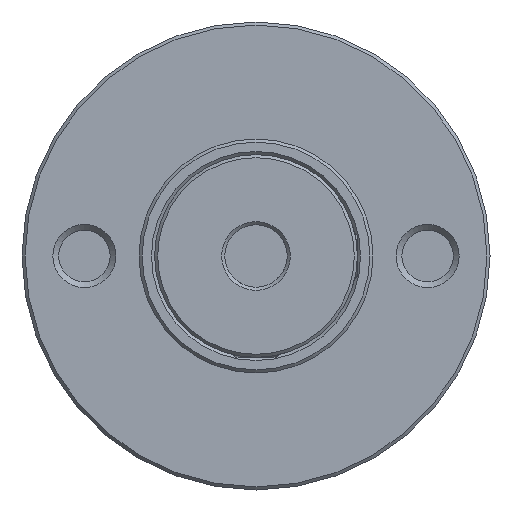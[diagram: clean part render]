
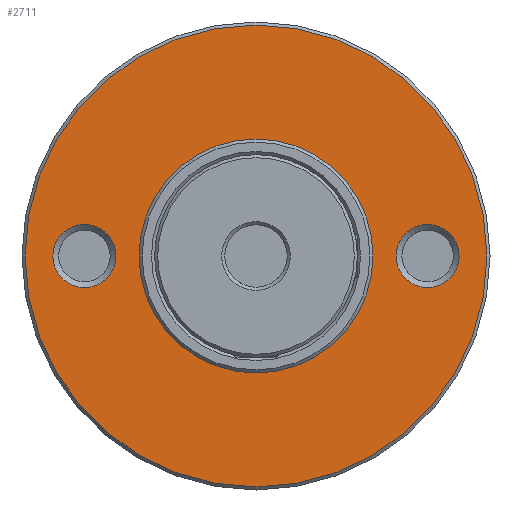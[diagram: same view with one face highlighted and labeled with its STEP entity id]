
A CAD part, front view. The second image highlights one B-rep face of the part: STEP entity #2711.
In plain terms, the highlighted planar face has unit normal (0, -1, 0).
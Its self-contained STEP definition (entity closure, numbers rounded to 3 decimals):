
#28 = EDGE_LOOP ( 'NONE', ( #3825 ) ) ;
#44 = CIRCLE ( 'NONE', #3310, 2.025 ) ;
#67 = CARTESIAN_POINT ( 'NONE',  ( 11., 0., 0. ) ) ;
#99 = AXIS2_PLACEMENT_3D ( 'NONE', #3492, #1261, #624 ) ;
#293 = ORIENTED_EDGE ( 'NONE', *, *, #3333, .F. ) ;
#474 = ORIENTED_EDGE ( 'NONE', *, *, #3411, .F. ) ;
#531 = CIRCLE ( 'NONE', #1122, 14.8 ) ;
#555 = EDGE_LOOP ( 'NONE', ( #293 ) ) ;
#561 = EDGE_CURVE ( 'NONE', #821, #821, #531, .T. ) ;
#624 = DIRECTION ( 'NONE',  ( 0., 0., -1. ) ) ;
#670 = CARTESIAN_POINT ( 'NONE',  ( -11., 0., 2.025 ) ) ;
#782 = CIRCLE ( 'NONE', #3175, 2.025 ) ;
#821 = VERTEX_POINT ( 'NONE', #1761 ) ;
#864 = FACE_BOUND ( 'NONE', #1146, .T. ) ;
#1055 = DIRECTION ( 'NONE',  ( 0., -1., 0. ) ) ;
#1122 = AXIS2_PLACEMENT_3D ( 'NONE', #2444, #3740, #1724 ) ;
#1146 = EDGE_LOOP ( 'NONE', ( #474 ) ) ;
#1171 = FACE_BOUND ( 'NONE', #28, .T. ) ;
#1195 = DIRECTION ( 'NONE',  ( 0., -1., 0. ) ) ;
#1261 = DIRECTION ( 'NONE',  ( 0., 1., 0. ) ) ;
#1724 = DIRECTION ( 'NONE',  ( 0., 0., 1. ) ) ;
#1761 = CARTESIAN_POINT ( 'NONE',  ( 0., 0., 14.8 ) ) ;
#1775 = DIRECTION ( 'NONE',  ( 0., 0., 1. ) ) ;
#1826 = FACE_BOUND ( 'NONE', #555, .T. ) ;
#1882 = CARTESIAN_POINT ( 'NONE',  ( 0., 0., -7.5 ) ) ;
#1902 = VERTEX_POINT ( 'NONE', #1882 ) ;
#2214 = CARTESIAN_POINT ( 'NONE',  ( 0., 0., 0. ) ) ;
#2444 = CARTESIAN_POINT ( 'NONE',  ( 0., 0., 0. ) ) ;
#2484 = DIRECTION ( 'NONE',  ( 0., 0., 1. ) ) ;
#2532 = VERTEX_POINT ( 'NONE', #670 ) ;
#2566 = CIRCLE ( 'NONE', #99, 7.5 ) ;
#2581 = VERTEX_POINT ( 'NONE', #2859 ) ;
#2657 = EDGE_LOOP ( 'NONE', ( #4070 ) ) ;
#2711 = ADVANCED_FACE ( 'NONE', ( #3831, #864, #1826, #1171 ), #4089, .T. ) ;
#2859 = CARTESIAN_POINT ( 'NONE',  ( 11., 0., 2.025 ) ) ;
#2938 = AXIS2_PLACEMENT_3D ( 'NONE', #2214, #1195, #2484 ) ;
#3175 = AXIS2_PLACEMENT_3D ( 'NONE', #3374, #1055, #1775 ) ;
#3284 = EDGE_CURVE ( 'NONE', #1902, #1902, #2566, .T. ) ;
#3310 = AXIS2_PLACEMENT_3D ( 'NONE', #67, #4164, #3897 ) ;
#3333 = EDGE_CURVE ( 'NONE', #2581, #2581, #44, .T. ) ;
#3374 = CARTESIAN_POINT ( 'NONE',  ( -11., 0., 0. ) ) ;
#3411 = EDGE_CURVE ( 'NONE', #2532, #2532, #782, .T. ) ;
#3492 = CARTESIAN_POINT ( 'NONE',  ( 0., 0., 0. ) ) ;
#3740 = DIRECTION ( 'NONE',  ( 0., -1., 0. ) ) ;
#3825 = ORIENTED_EDGE ( 'NONE', *, *, #3284, .T. ) ;
#3831 = FACE_OUTER_BOUND ( 'NONE', #2657, .T. ) ;
#3897 = DIRECTION ( 'NONE',  ( 0., 0., 1. ) ) ;
#4070 = ORIENTED_EDGE ( 'NONE', *, *, #561, .T. ) ;
#4089 = PLANE ( 'NONE',  #2938 ) ;
#4164 = DIRECTION ( 'NONE',  ( 0., -1., 0. ) ) ;
